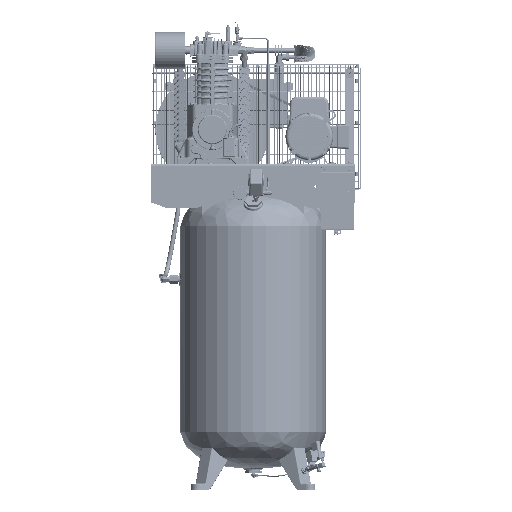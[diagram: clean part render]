
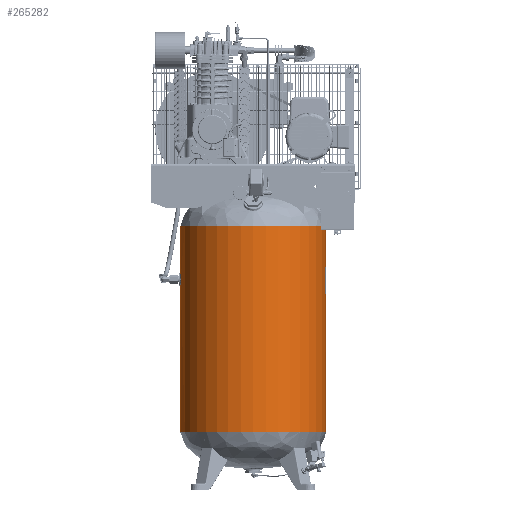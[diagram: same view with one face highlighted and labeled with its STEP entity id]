
A CAD part, top view. The second image highlights one B-rep face of the part: STEP entity #265282.
In plain terms, the highlighted cylindrical face has radius 304.8 mm (diameter 609.6 mm), a full revolution.
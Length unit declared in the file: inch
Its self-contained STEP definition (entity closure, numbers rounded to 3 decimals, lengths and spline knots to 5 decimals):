
#18494=FACE_BOUND('',#89441,.T.);
#34567=LINE('',#541584,#50288);
#34572=LINE('',#541595,#50293);
#34581=LINE('',#543450,#50302);
#34582=LINE('',#543467,#50303);
#50288=VECTOR('',#350914,0.3937);
#50293=VECTOR('',#350925,0.3937);
#50302=VECTOR('',#351062,12.);
#50303=VECTOR('',#351063,12.);
#59555=CYLINDRICAL_SURFACE('',#291151,12.);
#71846=FACE_OUTER_BOUND('',#89440,.T.);
#89440=EDGE_LOOP('',(#224915,#224916,#224917,#224918,#224919,#224920,#224921,
#224922,#224923,#224924,#224925));
#89441=EDGE_LOOP('',(#224926,#224927,#224928,#224929));
#105327=CIRCLE('',#291082,12.);
#105330=CIRCLE('',#291089,12.);
#105342=CIRCLE('',#291109,12.);
#105343=CIRCLE('',#291110,12.);
#105362=CIRCLE('',#291142,12.);
#105363=CIRCLE('',#291143,12.);
#113956=B_SPLINE_CURVE_WITH_KNOTS('',3,(#543452,#543453,#543454,#543455,
#543456,#543457,#543458),.UNSPECIFIED.,.F.,.F.,(4,1,1,1,4),(-16.06503,
-14.91753,-13.77003,-12.62252,-12.04874),
 .UNSPECIFIED.);
#113957=B_SPLINE_CURVE_WITH_KNOTS('',3,(#543460,#543461,#543462,#543463,
#543464,#543465,#543466),.UNSPECIFIED.,.F.,.F.,(4,1,1,1,4),(-4.01625,
-3.82501,-2.295,-1.1475,0.),.UNSPECIFIED.);
#113958=B_SPLINE_CURVE_WITH_KNOTS('',3,(#543468,#543469,#543470,#543471,
#543472,#543473,#543474,#543475,#543476,#543477,#543478,#543479,#543480),
 .UNSPECIFIED.,.F.,.F.,(4,1,1,1,1,1,1,1,1,1,4),(-12.0486,-11.47502,
-10.71002,-9.18002,-8.41502,-7.65001,
-6.88501,-6.12001,-4.59001,-4.20751,
-4.01629),.UNSPECIFIED.);
#129918=VERTEX_POINT('',#541574);
#129919=VERTEX_POINT('',#541575);
#129922=VERTEX_POINT('',#541583);
#129925=VERTEX_POINT('',#541593);
#129940=VERTEX_POINT('',#541969);
#129941=VERTEX_POINT('',#541973);
#130018=VERTEX_POINT('',#543252);
#130019=VERTEX_POINT('',#543256);
#130027=VERTEX_POINT('',#543449);
#130028=VERTEX_POINT('',#543451);
#130029=VERTEX_POINT('',#543459);
#162566=EDGE_CURVE('',#129918,#129919,#105327,.T.);
#162570=EDGE_CURVE('',#129922,#129918,#34567,.T.);
#162576=EDGE_CURVE('',#129919,#129925,#34572,.T.);
#162577=EDGE_CURVE('',#129925,#129922,#105330,.T.);
#162599=EDGE_CURVE('',#129940,#129941,#105342,.T.);
#162600=EDGE_CURVE('',#129941,#129940,#105343,.T.);
#162689=EDGE_CURVE('',#130019,#130018,#105362,.T.);
#162690=EDGE_CURVE('',#130018,#130019,#105363,.T.);
#162701=EDGE_CURVE('',#129941,#130027,#34581,.T.);
#162702=EDGE_CURVE('',#130028,#130027,#113956,.T.);
#162703=EDGE_CURVE('',#130029,#130028,#113957,.T.);
#162704=EDGE_CURVE('',#130029,#130019,#34582,.T.);
#162705=EDGE_CURVE('',#130027,#130029,#113958,.T.);
#224915=ORIENTED_EDGE('',*,*,#162599,.F.);
#224916=ORIENTED_EDGE('',*,*,#162600,.F.);
#224917=ORIENTED_EDGE('',*,*,#162701,.T.);
#224918=ORIENTED_EDGE('',*,*,#162702,.F.);
#224919=ORIENTED_EDGE('',*,*,#162703,.F.);
#224920=ORIENTED_EDGE('',*,*,#162704,.T.);
#224921=ORIENTED_EDGE('',*,*,#162689,.T.);
#224922=ORIENTED_EDGE('',*,*,#162690,.T.);
#224923=ORIENTED_EDGE('',*,*,#162704,.F.);
#224924=ORIENTED_EDGE('',*,*,#162705,.F.);
#224925=ORIENTED_EDGE('',*,*,#162701,.F.);
#224926=ORIENTED_EDGE('',*,*,#162577,.T.);
#224927=ORIENTED_EDGE('',*,*,#162570,.T.);
#224928=ORIENTED_EDGE('',*,*,#162566,.T.);
#224929=ORIENTED_EDGE('',*,*,#162576,.T.);
#265282=ADVANCED_FACE('',(#71846,#18494),#59555,.T.);
#291082=AXIS2_PLACEMENT_3D('',#541576,#350906,#350907);
#291089=AXIS2_PLACEMENT_3D('',#541597,#350928,#350929);
#291109=AXIS2_PLACEMENT_3D('',#541974,#350971,#350972);
#291110=AXIS2_PLACEMENT_3D('',#541975,#350973,#350974);
#291142=AXIS2_PLACEMENT_3D('',#543257,#351041,#351042);
#291143=AXIS2_PLACEMENT_3D('',#543258,#351043,#351044);
#291151=AXIS2_PLACEMENT_3D('',#543448,#351060,#351061);
#350906=DIRECTION('center_axis',(0.,-1.,0.));
#350907=DIRECTION('ref_axis',(1.,0.,0.));
#350914=DIRECTION('',(0.,-1.,0.));
#350925=DIRECTION('',(0.,1.,0.));
#350928=DIRECTION('center_axis',(0.,1.,0.));
#350929=DIRECTION('ref_axis',(1.,0.,0.));
#350971=DIRECTION('center_axis',(0.,-1.,0.));
#350972=DIRECTION('ref_axis',(1.,0.,0.));
#350973=DIRECTION('center_axis',(0.,-1.,0.));
#350974=DIRECTION('ref_axis',(1.,0.,0.));
#351041=DIRECTION('center_axis',(0.,-1.,0.));
#351042=DIRECTION('ref_axis',(1.,0.,0.));
#351043=DIRECTION('center_axis',(0.,-1.,0.));
#351044=DIRECTION('ref_axis',(1.,0.,0.));
#351060=DIRECTION('center_axis',(0.,-1.,0.));
#351061=DIRECTION('ref_axis',(1.,0.,0.));
#351062=DIRECTION('',(0.,1.,0.));
#351063=DIRECTION('',(0.,1.,0.));
#541574=CARTESIAN_POINT('',(11.81035,5.75,-2.125));
#541575=CARTESIAN_POINT('',(11.81035,5.75,2.125));
#541576=CARTESIAN_POINT('Origin',(0.,5.75,
0.));
#541583=CARTESIAN_POINT('',(11.81035,10.25,-2.125));
#541584=CARTESIAN_POINT('',(11.81035,0.,-2.125));
#541593=CARTESIAN_POINT('',(11.81035,10.25,2.125));
#541595=CARTESIAN_POINT('',(11.81035,0.,2.125));
#541597=CARTESIAN_POINT('Origin',(0.,10.25,0.));
#541969=CARTESIAN_POINT('',(12.,-17.,0.));
#541973=CARTESIAN_POINT('',(-12.,-17.,0.));
#541974=CARTESIAN_POINT('Origin',(0.,-17.,0.));
#541975=CARTESIAN_POINT('Origin',(0.,-17.,0.));
#543252=CARTESIAN_POINT('',(12.,17.,0.));
#543256=CARTESIAN_POINT('',(-12.,17.,0.));
#543257=CARTESIAN_POINT('Origin',(0.,17.,0.));
#543258=CARTESIAN_POINT('Origin',(0.,17.,0.));
#543448=CARTESIAN_POINT('Origin',(0.,0.,
0.));
#543449=CARTESIAN_POINT('',(-11.99995,7.03006,-0.00003));
#543450=CARTESIAN_POINT('',(-12.,0.,0.));
#543451=CARTESIAN_POINT('',(-11.94501,8.1795,-1.14748));
#543452=CARTESIAN_POINT('Ctrl Pts',(-11.94501,8.1795,
-1.14748));
#543453=CARTESIAN_POINT('Ctrl Pts',(-11.94501,8.00669,
-1.14748));
#543454=CARTESIAN_POINT('Ctrl Pts',(-11.953,7.66126,
-1.06824));
#543455=CARTESIAN_POINT('Ctrl Pts',(-11.97971,7.24841,
-0.73777));
#543456=CARTESIAN_POINT('Ctrl Pts',(-11.99733,7.05835,
-0.34206));
#543457=CARTESIAN_POINT('Ctrl Pts',(-11.99995,7.03003,
-0.08558));
#543458=CARTESIAN_POINT('Ctrl Pts',(-11.99995,7.03006,-0.00006));
#543459=CARTESIAN_POINT('',(-12.00004,9.32926,-0.00002));
#543460=CARTESIAN_POINT('Ctrl Pts',(-12.00004,9.32926,
-0.00002));
#543461=CARTESIAN_POINT('Ctrl Pts',(-12.00005,9.32929,
-0.02853));
#543462=CARTESIAN_POINT('Ctrl Pts',(-11.99923,9.32001,
-0.28512));
#543463=CARTESIAN_POINT('Ctrl Pts',(-11.98285,9.15698,
-0.7011));
#543464=CARTESIAN_POINT('Ctrl Pts',(-11.9529,8.69749,
-1.06816));
#543465=CARTESIAN_POINT('Ctrl Pts',(-11.94501,8.35231,
-1.14748));
#543466=CARTESIAN_POINT('Ctrl Pts',(-11.94501,8.1795,
-1.14748));
#543467=CARTESIAN_POINT('',(-12.,0.,0.));
#543468=CARTESIAN_POINT('Ctrl Pts',(-11.99995,7.03006,
0.));
#543469=CARTESIAN_POINT('Ctrl Pts',(-11.99995,7.03009,
0.08548));
#543470=CARTESIAN_POINT('Ctrl Pts',(-11.99789,7.05227,0.28501));
#543471=CARTESIAN_POINT('Ctrl Pts',(-11.98331,7.20972,
0.68825));
#543472=CARTESIAN_POINT('Ctrl Pts',(-11.95769,7.5592,
1.01466));
#543473=CARTESIAN_POINT('Ctrl Pts',(-11.94461,8.00478,1.1516));
#543474=CARTESIAN_POINT('Ctrl Pts',(-11.94461,8.35426,
1.15188));
#543475=CARTESIAN_POINT('Ctrl Pts',(-11.95437,8.6878,
1.04841));
#543476=CARTESIAN_POINT('Ctrl Pts',(-11.97594,9.0712,
0.78672));
#543477=CARTESIAN_POINT('Ctrl Pts',(-11.99542,9.27983,
0.42525));
#543478=CARTESIAN_POINT('Ctrl Pts',(-11.99969,9.32595,
0.11406));
#543479=CARTESIAN_POINT('Ctrl Pts',(-12.00003,9.32923,
0.02851));
#543480=CARTESIAN_POINT('Ctrl Pts',(-12.00004,9.32926,
0.));
